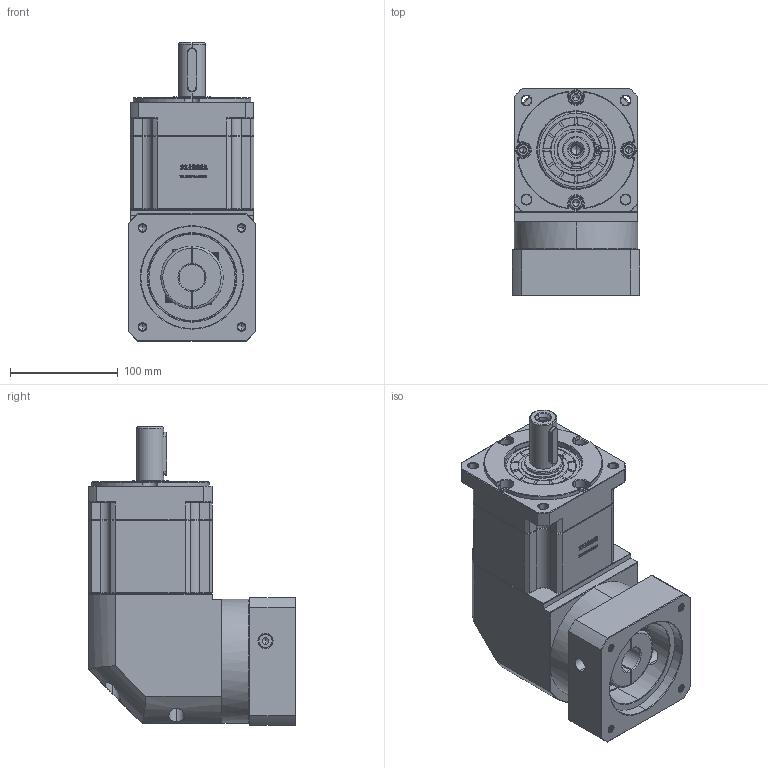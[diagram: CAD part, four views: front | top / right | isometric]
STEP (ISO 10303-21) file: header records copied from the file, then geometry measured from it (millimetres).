
FILE_DESCRIPTION (( 'STEP AP214' ), '1' );
FILE_NAME ('ZBR115A-D25-L2-24-95-130-M8.step', '2023-03-03T04:57:34', ( '' ), ( 'Microsoft' ), 'SwSTEP 2.0', 'SolidWorks 2016', '' );
FILE_SCHEMA (( 'AUTOMOTIVE_DESIGN' ));
Length unit declared in the file: millimetre
Products named in the file (1): ZBR115A-D25-L2-24-95-130-M8
Bounding box: 118 x 192.4 x 276.5 mm (x, y, z)
Volume: 3287020.1 mm3; surface area: 258674 mm2
Topology: 6 solids, 6 shells, 2981 faces, 7921 edges, 5086 vertices
Faces by surface type: plane 1559, bspline 606, cylinder 439, cone 369, torus 8
Entity records: 161772 total; most frequent: CARTESIAN_POINT 59752, ORIENTED_EDGE 15782, DIRECTION 11953, EDGE_CURVE 7891, VECTOR 5307, LINE 5307, VERTEX_POINT 5086, AXIS2_PLACEMENT_3D 3323
